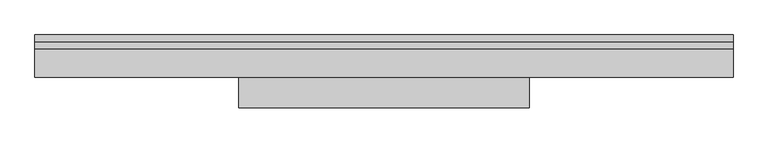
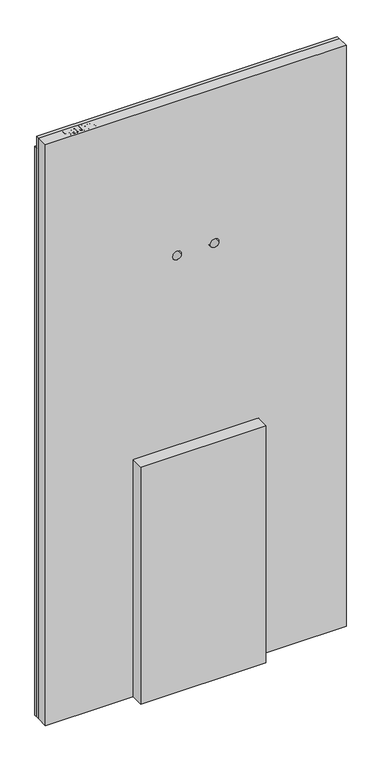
"""IFC4 building model written with IfcOpenShell, lengths in millimetres: proxy geometry, ParedeSanita_Blufab : Parede Sanita- Largura 120 cm."""

from ifc_helpers import new_model, si_unit, point, frame, frame_2d, origin, origin_with_axes, place, context, project, spatial, polyline, circle_curve, trimmed, segment, composite_curve, outline, extrude, source, transform, mapped, element, save


def generic_models_edb91717(model_context):
    return source(origin(), model_context, "Body", "SweptSolid", [
        extrude(outline(polyline([(850.0, -25.0126803), (850.0, -125.0126803), (350.0, -125.0126803), (350.0, -25.0126803), (850.0, -25.0126803)])), origin_with_axes(), (0.0, 0.0, 1.0), 1000.0),
        extrude(outline(polyline([(2450.0, 0.0), (0.0, 0.0), (0.0, 1200.0), (2450.0, 1200.0), (2450.0, 0.0)]), holes=[composite_curve([segment(trimmed(circle_curve(frame_2d((360.0, 703.0)), 22.5), [point((360.0, 680.5))], [point((360.0, 725.5))], True, "CARTESIAN"), True, "CONTINUOUS"), segment(trimmed(circle_curve(frame_2d((360.0, 703.0)), 22.5), [point((360.0, 725.5))], [point((360.0, 680.5))], True, "CARTESIAN"), True, "CONTINUOUS")], self_intersect=False), composite_curve([segment(trimmed(circle_curve(frame_2d((360.0, 497.0)), 25.0), [point((360.0, 472.0))], [point((360.0, 522.0))], True, "CARTESIAN"), True, "CONTINUOUS"), segment(trimmed(circle_curve(frame_2d((360.0, 497.0)), 25.0), [point((360.0, 522.0))], [point((360.0, 472.0))], True, "CARTESIAN"), True, "CONTINUOUS")], self_intersect=False), composite_curve([segment(trimmed(circle_curve(frame_2d((1800.0, 525.0)), 17.5), [point((1800.0, 507.5))], [point((1800.0, 542.5))], True, "CARTESIAN"), True, "CONTINUOUS"), segment(trimmed(circle_curve(frame_2d((1800.0, 525.0)), 17.5), [point((1800.0, 542.5))], [point((1800.0, 507.5))], True, "CARTESIAN"), True, "CONTINUOUS")], self_intersect=False), composite_curve([segment(trimmed(circle_curve(frame_2d((1800.0, 675.0)), 17.5), [point((1800.0, 657.5))], [point((1800.0, 692.5))], True, "CARTESIAN"), True, "CONTINUOUS"), segment(trimmed(circle_curve(frame_2d((1800.0, 675.0)), 17.5), [point((1800.0, 692.5))], [point((1800.0, 657.5))], True, "CARTESIAN"), True, "CONTINUOUS")], self_intersect=False), composite_curve([segment(trimmed(circle_curve(frame_2d((393.0, 600.0)), 35.0), [point((393.0, 565.0))], [point((393.0, 635.0))], True, "CARTESIAN"), True, "CONTINUOUS"), segment(trimmed(circle_curve(frame_2d((393.0, 600.0)), 35.0), [point((393.0, 635.0))], [point((393.0, 565.0))], True, "CARTESIAN"), True, "CONTINUOUS")], self_intersect=False), composite_curve([segment(trimmed(circle_curve(frame_2d((256.0, 600.0)), 55.0), [point((256.0, 545.0))], [point((256.0, 655.0))], True, "CARTESIAN"), True, "CONTINUOUS"), segment(trimmed(circle_curve(frame_2d((256.0, 600.0)), 55.0), [point((256.0, 655.0))], [point((256.0, 545.0))], True, "CARTESIAN"), True, "CONTINUOUS")], self_intersect=False)]), frame((0.0, -73.0, 0.0), z_axis=(0.0, 1.0, 0.0), x_axis=(0.0, 0.0, 1.0)), (0.0, 0.0, 1.0), 47.9873197),
        extrude(outline(polyline([(2450.0, 0.0), (0.0, 0.0), (0.0, 1200.0), (2450.0, 1200.0), (2450.0, 0.0)]), holes=[composite_curve([segment(trimmed(circle_curve(frame_2d((360.0, 703.0)), 22.5), [point((360.0, 680.5))], [point((360.0, 725.5))], True, "CARTESIAN"), True, "CONTINUOUS"), segment(trimmed(circle_curve(frame_2d((360.0, 703.0)), 22.5), [point((360.0, 725.5))], [point((360.0, 680.5))], True, "CARTESIAN"), True, "CONTINUOUS")], self_intersect=False), composite_curve([segment(trimmed(circle_curve(frame_2d((360.0, 497.0)), 25.0), [point((360.0, 472.0))], [point((360.0, 522.0))], True, "CARTESIAN"), True, "CONTINUOUS"), segment(trimmed(circle_curve(frame_2d((360.0, 497.0)), 25.0), [point((360.0, 522.0))], [point((360.0, 472.0))], True, "CARTESIAN"), True, "CONTINUOUS")], self_intersect=False), composite_curve([segment(trimmed(circle_curve(frame_2d((1800.0, 525.0)), 17.5), [point((1800.0, 507.5))], [point((1800.0, 542.5))], True, "CARTESIAN"), True, "CONTINUOUS"), segment(trimmed(circle_curve(frame_2d((1800.0, 525.0)), 17.5), [point((1800.0, 542.5))], [point((1800.0, 507.5))], True, "CARTESIAN"), True, "CONTINUOUS")], self_intersect=False), composite_curve([segment(trimmed(circle_curve(frame_2d((1800.0, 675.0)), 17.5), [point((1800.0, 657.5))], [point((1800.0, 692.5))], True, "CARTESIAN"), True, "CONTINUOUS"), segment(trimmed(circle_curve(frame_2d((1800.0, 675.0)), 17.5), [point((1800.0, 692.5))], [point((1800.0, 657.5))], True, "CARTESIAN"), True, "CONTINUOUS")], self_intersect=False), composite_curve([segment(trimmed(circle_curve(frame_2d((393.0, 600.0)), 35.0), [point((393.0, 565.0))], [point((393.0, 635.0))], True, "CARTESIAN"), True, "CONTINUOUS"), segment(trimmed(circle_curve(frame_2d((393.0, 600.0)), 35.0), [point((393.0, 635.0))], [point((393.0, 565.0))], True, "CARTESIAN"), True, "CONTINUOUS")], self_intersect=False), composite_curve([segment(trimmed(circle_curve(frame_2d((256.0, 600.0)), 55.0), [point((256.0, 545.0))], [point((256.0, 655.0))], True, "CARTESIAN"), True, "CONTINUOUS"), segment(trimmed(circle_curve(frame_2d((256.0, 600.0)), 55.0), [point((256.0, 655.0))], [point((256.0, 545.0))], True, "CARTESIAN"), True, "CONTINUOUS")], self_intersect=False)]), frame((0.0, -25.0126803, 0.0), z_axis=(0.0, 1.0, 0.0), x_axis=(0.0, 0.0, 1.0)), (0.0, 0.0, 1.0), 12.5),
        extrude(outline(polyline([(2400.0, 0.0), (0.0, 0.0), (0.0, 1200.0), (2400.0, 1200.0), (2400.0, 0.0)]), holes=[composite_curve([segment(trimmed(circle_curve(frame_2d((360.0, 703.0)), 22.5), [point((360.0, 680.5))], [point((360.0, 725.5))], True, "CARTESIAN"), True, "CONTINUOUS"), segment(trimmed(circle_curve(frame_2d((360.0, 703.0)), 22.5), [point((360.0, 725.5))], [point((360.0, 680.5))], True, "CARTESIAN"), True, "CONTINUOUS")], self_intersect=False), composite_curve([segment(trimmed(circle_curve(frame_2d((360.0, 497.0)), 25.0), [point((360.0, 472.0))], [point((360.0, 522.0))], True, "CARTESIAN"), True, "CONTINUOUS"), segment(trimmed(circle_curve(frame_2d((360.0, 497.0)), 25.0), [point((360.0, 522.0))], [point((360.0, 472.0))], True, "CARTESIAN"), True, "CONTINUOUS")], self_intersect=False), composite_curve([segment(trimmed(circle_curve(frame_2d((1800.0, 525.0)), 17.5), [point((1800.0, 507.5))], [point((1800.0, 542.5))], True, "CARTESIAN"), True, "CONTINUOUS"), segment(trimmed(circle_curve(frame_2d((1800.0, 525.0)), 17.5), [point((1800.0, 542.5))], [point((1800.0, 507.5))], True, "CARTESIAN"), True, "CONTINUOUS")], self_intersect=False), composite_curve([segment(trimmed(circle_curve(frame_2d((1800.0, 675.0)), 17.5), [point((1800.0, 657.5))], [point((1800.0, 692.5))], True, "CARTESIAN"), True, "CONTINUOUS"), segment(trimmed(circle_curve(frame_2d((1800.0, 675.0)), 17.5), [point((1800.0, 692.5))], [point((1800.0, 657.5))], True, "CARTESIAN"), True, "CONTINUOUS")], self_intersect=False), composite_curve([segment(trimmed(circle_curve(frame_2d((393.0, 600.0)), 35.0), [point((393.0, 565.0))], [point((393.0, 635.0))], True, "CARTESIAN"), True, "CONTINUOUS"), segment(trimmed(circle_curve(frame_2d((393.0, 600.0)), 35.0), [point((393.0, 635.0))], [point((393.0, 565.0))], True, "CARTESIAN"), True, "CONTINUOUS")], self_intersect=False), composite_curve([segment(trimmed(circle_curve(frame_2d((256.0, 600.0)), 55.0), [point((256.0, 545.0))], [point((256.0, 655.0))], True, "CARTESIAN"), True, "CONTINUOUS"), segment(trimmed(circle_curve(frame_2d((256.0, 600.0)), 55.0), [point((256.0, 655.0))], [point((256.0, 545.0))], True, "CARTESIAN"), True, "CONTINUOUS")], self_intersect=False)]), frame((0.0, -12.5, 0.0), z_axis=(0.0, 1.0, 0.0), x_axis=(0.0, 0.0, 1.0)), (0.0, 0.0, 1.0), 12.5),
        extrude(outline(polyline([(90.9034363, -34.0063401), (94.6705479, -34.0063401), (94.6705479, -46.2494529), (102.3298511, -46.2494529), (111.0817637, -48.9129186), (113.5061061, -55.4244299), (112.608474, -59.5336718), (110.2356351, -62.4472972), (106.5752093, -63.8562852), (102.0723337, -64.1432332), (90.9034363, -64.1432332), (90.9034363, -34.0063401)]), holes=[polyline([(94.6705479, -50.0165646), (94.6705479, -60.3761215), (102.4622886, -60.3761215), (106.2294002, -60.1186041), (108.7714648, -58.4116317), (109.7389944, -55.2919924), (108.0982407, -51.3998009), (102.5505803, -50.0165646), (94.6705479, -50.0165646)])]), origin_with_axes(), (0.0, 0.0, 1.0), 2450.0),
        extrude(outline(polyline([(117.2732177, -44.3658971), (118.8992561, -38.6122227), (123.1556508, -34.8009652), (129.8842125, -33.5354512), (135.5827046, -34.7089947), (139.4675385, -37.9978598), (140.8176654, -42.5044142), (139.6441218, -46.7644877), (135.9984113, -49.8179083), (129.3323895, -51.7088217), (123.1814026, -53.8131067), (121.9821072, -56.4250689), (123.6743644, -59.5520659), (129.0675145, -60.8470105), (134.4459492, -59.5373506), (136.5796648, -55.667232), (140.3467764, -55.667232), (138.8531755, -60.3834792), (134.88005, -63.5399067), (128.9203617, -64.6141221), (123.335913, -63.5877314), (119.5209767, -60.5784566), (118.2149956, -56.3147043), (119.2708169, -52.5696656), (122.4750691, -49.7664048), (128.3795751, -47.9086007), (133.8646957, -46.4701821), (136.4251544, -44.7595308), (137.0505538, -42.4087649), (136.2154616, -39.8814156), (133.6733971, -37.9905021), (129.7370597, -37.3025628), (125.2194688, -38.2112313), (122.2543399, -40.5951067), (121.0403293, -44.3658971), (117.2732177, -44.3658971)])), origin_with_axes(), (0.0, 0.0, 1.0), 2450.0),
        extrude(outline(polyline([(159.1823346, -34.0063401), (159.1823346, -64.1432332), (156.7543134, -64.1432332), (153.4029085, -60.1333194), (147.8809997, -56.6090099), (147.8809997, -53.0479122), (151.8467676, -54.9498621), (155.415223, -57.4919267), (155.415223, -34.0063401), (159.1823346, -34.0063401)])), origin_with_axes(), (0.0, 0.0, 1.0), 2450.0),
        extrude(outline(polyline([(187.4356718, -37.7734518), (172.639458, -37.7734518), (174.3390728, -39.690117), (178.6727227, -43.3137546), (184.0695516, -48.475139), (186.2952376, -52.1686742), (186.9647829, -55.7408084), (184.4815794, -61.7299273), (177.7383024, -64.1432332), (171.0170984, -61.9727294), (168.1292247, -55.667232), (171.8963364, -55.1963431), (173.4819078, -59.0002429), (177.6573684, -60.3761215), (181.6636033, -58.9671335), (183.1976712, -55.5127216), (181.5716328, -51.2452904), (175.0674792, -44.9692236), (170.351232, -40.6024643), (168.063006, -36.603587), (167.6583358, -34.0063401), (187.4356718, -34.0063401), (187.4356718, -37.7734518)])), origin_with_axes(), (0.0, 0.0, 1.0), 2450.0),
        extrude(outline(polyline([(191.2027835, -48.8319845), (194.2047005, -36.4049307), (201.0914515, -33.5354512), (206.6060026, -35.1872413), (209.8838312, -40.1977941), (210.9801195, -48.8319845), (210.295859, -55.9137129), (208.5300254, -60.3724427), (205.4913202, -63.1720247), (201.0914515, -64.1432332), (195.5989733, -62.5024795), (192.3101083, -57.5029632), (191.2027835, -48.8319845)]), holes=[polyline([(194.9698951, -48.8393422), (196.7945898, -58.3601282), (201.0473057, -60.3761215), (205.5060354, -58.0878955), (207.2130079, -48.8393422), (205.4471743, -39.4914607), (201.0914515, -37.3025628), (196.7357287, -39.484103), (194.9698951, -48.8393422)])]), origin_with_axes(), (0.0, 0.0, 1.0), 2450.0),
    ])


if __name__ == "__main__":
    model = new_model("IFC4")
    model_context = context("Model", 3, world=origin())
    ifc_project = project(units=[si_unit("LENGTHUNIT", "METRE", prefix="MILLI")], contexts=[model_context])
    site = spatial("IfcSite", under=ifc_project)
    building = spatial("IfcBuilding", under=site)
    placement = place(None, origin())
    generic_models_shape = generic_models_edb91717(model_context)
    element("IfcBuildingElementProxy", 1, Name="ParedeSanita_Blufab : Parede Sanita- Largura 120 cm", ObjectType="ParedeSanita_Blufab : Parede Sanita- Largura 120 cm", at=placement, inside=building, context=model_context, shape_type="MappedRepresentation", body=[
        mapped(generic_models_shape, transform((0.0, 0.0, 0.0), x_axis=(1.0, 0.0, 0.0), y_axis=(0.0, 1.0, 0.0), z_axis=(0.0, 0.0, 1.0))),
    ])
    save(model, "model.ifc")
